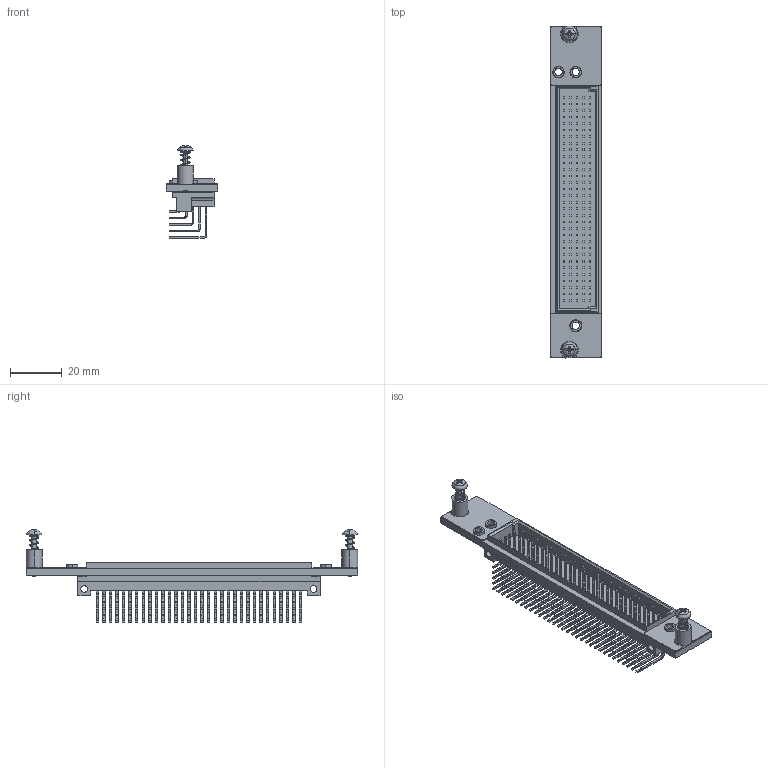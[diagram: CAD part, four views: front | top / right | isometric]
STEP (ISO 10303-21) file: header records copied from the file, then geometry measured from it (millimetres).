
FILE_DESCRIPTION((''),'2;1');
FILE_NAME('CU_PXI-2510','2009-09-09T',('jjorden'),(''),'PRO/ENGINEER BY PARAMETRIC TECHNOLOGY CORPORATION, 2006080','PRO/ENGINEER BY PARAMETRIC TECHNOLOGY CORPORATION, 2006080','');
FILE_SCHEMA(('CONFIG_CONTROL_DESIGN'));
Products named in the file (1): CU_PXI-2510
Bounding box: 20.02 x 128.7 x 36.04 mm (x, y, z)
Volume: 12633.6 mm3; surface area: 21169.2 mm2
Topology: 4 solids, 4 shells, 3487 faces, 9254 edges, 6126 vertices
Faces by surface type: plane 3031, cylinder 400, cone 24, bspline 24, sphere 4, torus 4
Entity records: 122013 total; most frequent: CARTESIAN_POINT 34412, ORIENTED_EDGE 18492, DIRECTION 17030, EDGE_CURVE 9246, VECTOR 8320, LINE 8320, VERTEX_POINT 6164, AXIS2_PLACEMENT_3D 4355
